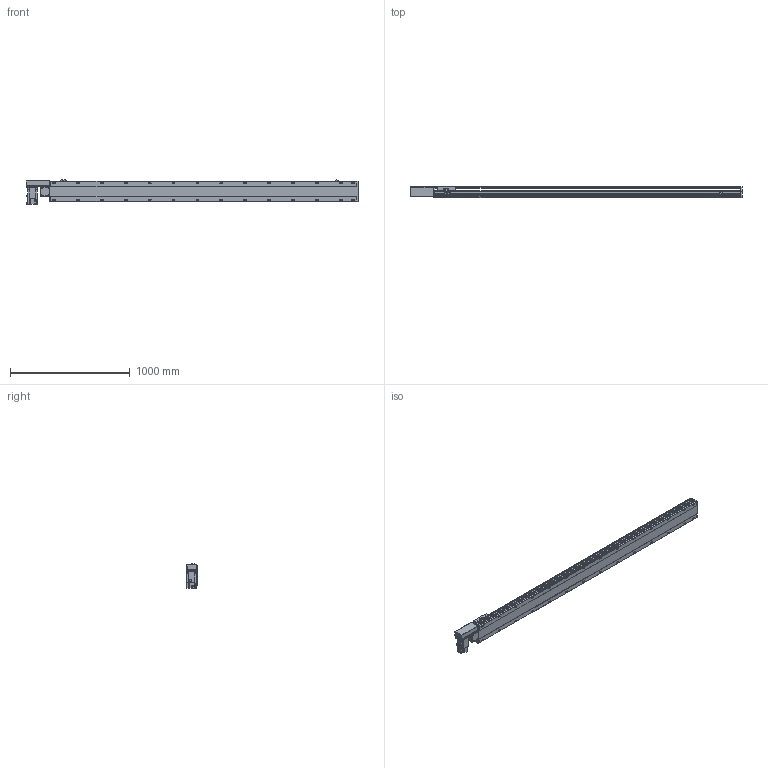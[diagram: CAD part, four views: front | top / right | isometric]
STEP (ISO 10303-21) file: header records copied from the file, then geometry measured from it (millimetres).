
FILE_DESCRIPTION( ( 'STEP AP214' ), '1' );
FILE_NAME( 'x:/temp/worker_4/temp/exporttempdir_2248_292_Uyy7T/format_0/PBS170-P40-S2300-R-T75-C1-N(0).stp', '2022-06-07T07:32:05', ( 'License CC BY-ND 4.0' ), ( 'CADENAS' ), ' ', 'PARTsolutions', ' ' );
FILE_SCHEMA( ( 'AUTOMOTIVE_DESIGN { 1 0 10303 214 1 1 1 1 }' ) );
Length unit declared in the file: millimetre
Products named in the file (7): PBS170-P40-S2300-R-T75-C1-N(0); _PBS170-S2300()_body; _PBS170T-R_motors; _T75-p1; _PBS170_sliser; _PBS170_plant; _PBS170_sensor
Assembly tree (8 placements, depth 2):
  PBS170-P40-S2300-R-T75-C1-N(0)
    _PBS170-S2300()_body
    _PBS170T-R_motors
    _T75-p1
    _PBS170_sliser
    _PBS170_plant
    _PBS170_sensor  x3
Bounding box: 2778 x 97 x 205.3 mm (x, y, z)
Volume: 20252233.2 mm3; surface area: 2558160.1 mm2
Topology: 8 solids, 8 shells, 1178 faces, 3115 edges, 2030 vertices
Faces by surface type: plane 723, cylinder 387, cone 58, sphere 8, torus 2
Full cylindrical faces by diameter (mm): 3.242 x4, 4 x2, 4.4 x4, 4.5 x6, 4.917 x4, 6 x9, 6.647 x36, 7 x2, 7.5 x4, 8 x8, 8.5 x28, 10 x4, 10.5 x28, 11 x2, 30 x2, 40 x1, 70 x1
Entity records: 43592 total; most frequent: CARTESIAN_POINT 7229, DIRECTION 5720, ORIENTED_EDGE 5388, EDGE_CURVE 2694, AXIS2_PLACEMENT_3D 2017, VERTEX_POINT 1874, LINE 1686, VECTOR 1686
